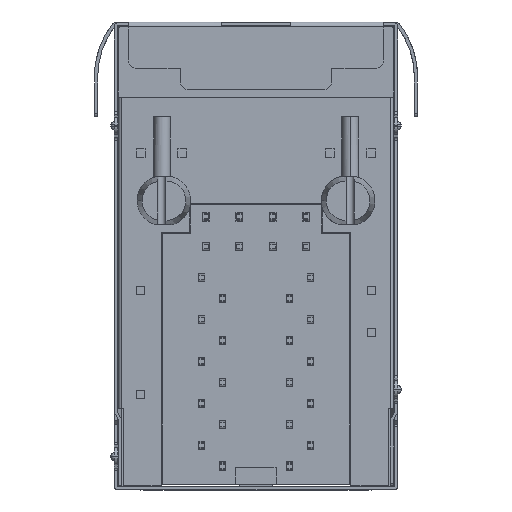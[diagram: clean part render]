
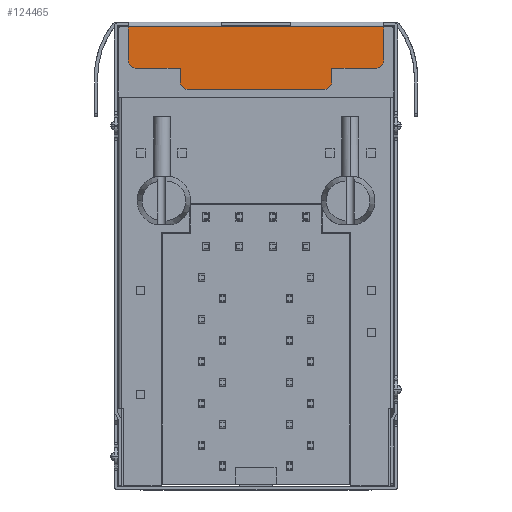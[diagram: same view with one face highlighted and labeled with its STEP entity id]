
A CAD part, front view. The second image highlights one B-rep face of the part: STEP entity #124465.
In plain terms, the highlighted planar face has unit normal (0, -1, 0).
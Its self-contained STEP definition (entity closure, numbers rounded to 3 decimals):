
#52 = DIRECTION ( 'NONE',  ( -1., 0., 0. ) ) ;
#445 = DIRECTION ( 'NONE',  ( -1., 0., 0. ) ) ;
#2903 = CIRCLE ( 'NONE', #116552, 0.5 ) ;
#3660 = EDGE_LOOP ( 'NONE', ( #4419, #145747, #17607, #168688, #151245, #145065, #78782, #167866, #30835, #84018, #22297, #86339 ) ) ;
#4019 = CARTESIAN_POINT ( 'NONE',  ( 4.428, -0.25, 24.795 ) ) ;
#4419 = ORIENTED_EDGE ( 'NONE', *, *, #174604, .F. ) ;
#5715 = EDGE_CURVE ( 'NONE', #133139, #91478, #111532, .T. ) ;
#14225 = VECTOR ( 'NONE', #122553, 1000. ) ;
#16945 = VECTOR ( 'NONE', #127702, 1000. ) ;
#17607 = ORIENTED_EDGE ( 'NONE', *, *, #179150, .F. ) ;
#19073 = VERTEX_POINT ( 'NONE', #199204 ) ;
#19264 = VERTEX_POINT ( 'NONE', #173790 ) ;
#19678 = VECTOR ( 'NONE', #208947, 1000. ) ;
#21848 = EDGE_CURVE ( 'NONE', #79120, #135962, #60407, .T. ) ;
#22297 = ORIENTED_EDGE ( 'NONE', *, *, #137909, .F. ) ;
#23728 = VECTOR ( 'NONE', #203459, 1000. ) ;
#25412 = EDGE_CURVE ( 'NONE', #63031, #135962, #180523, .T. ) ;
#30835 = ORIENTED_EDGE ( 'NONE', *, *, #21848, .T. ) ;
#34035 = VERTEX_POINT ( 'NONE', #117844 ) ;
#34242 = AXIS2_PLACEMENT_3D ( 'NONE', #4019, #94721, #109713 ) ;
#35910 = CARTESIAN_POINT ( 'NONE',  ( 13.128, -0.25, 24.295 ) ) ;
#40337 = CARTESIAN_POINT ( 'NONE',  ( 12.628, -0.25, 24.295 ) ) ;
#41029 = EDGE_CURVE ( 'NONE', #134973, #54100, #164870, .T. ) ;
#47163 = FACE_OUTER_BOUND ( 'NONE', #3660, .T. ) ;
#50468 = CARTESIAN_POINT ( 'NONE',  ( 13.128, -0.25, 25.599 ) ) ;
#53061 = AXIS2_PLACEMENT_3D ( 'NONE', #69382, #156659, #445 ) ;
#54022 = DIRECTION ( 'NONE',  ( 0., -1., 0. ) ) ;
#54100 = VERTEX_POINT ( 'NONE', #57166 ) ;
#57166 = CARTESIAN_POINT ( 'NONE',  ( 3.928, -0.25, 25.599 ) ) ;
#60407 = CIRCLE ( 'NONE', #53061, 0.5 ) ;
#63031 = VERTEX_POINT ( 'NONE', #50468 ) ;
#63233 = VERTEX_POINT ( 'NONE', #185800 ) ;
#64931 = DIRECTION ( 'NONE',  ( -1., 0., 0. ) ) ;
#69382 = CARTESIAN_POINT ( 'NONE',  ( 12.628, -0.25, 24.795 ) ) ;
#73123 = LINE ( 'NONE', #91471, #14225 ) ;
#77582 = CARTESIAN_POINT ( 'NONE',  ( 3.928, -0.25, 24.295 ) ) ;
#78495 = CARTESIAN_POINT ( 'NONE',  ( 0.778, -0.25, 27.394 ) ) ;
#78782 = ORIENTED_EDGE ( 'NONE', *, *, #88865, .T. ) ;
#79120 = VERTEX_POINT ( 'NONE', #40337 ) ;
#81612 = DIRECTION ( 'NONE',  ( 0., 0., -1. ) ) ;
#83303 = LINE ( 'NONE', #99401, #146983 ) ;
#84018 = ORIENTED_EDGE ( 'NONE', *, *, #25412, .F. ) ;
#84760 = VECTOR ( 'NONE', #217457, 1000. ) ;
#86170 = EDGE_CURVE ( 'NONE', #79120, #19073, #83303, .T. ) ;
#86339 = ORIENTED_EDGE ( 'NONE', *, *, #5715, .T. ) ;
#88865 = EDGE_CURVE ( 'NONE', #134973, #19073, #210299, .T. ) ;
#91462 = VERTEX_POINT ( 'NONE', #200323 ) ;
#91471 = CARTESIAN_POINT ( 'NONE',  ( 17.128, -0.25, 28.099 ) ) ;
#91478 = VERTEX_POINT ( 'NONE', #145203 ) ;
#94721 = DIRECTION ( 'NONE',  ( 0., -1., 0. ) ) ;
#99401 = CARTESIAN_POINT ( 'NONE',  ( 17.128, -0.25, 24.295 ) ) ;
#100514 = DIRECTION ( 'NONE',  ( 0., 0., 1. ) ) ;
#109713 = DIRECTION ( 'NONE',  ( -1., 0., 0. ) ) ;
#111532 = CIRCLE ( 'NONE', #148212, 0.5 ) ;
#116552 = AXIS2_PLACEMENT_3D ( 'NONE', #157143, #206578, #192774 ) ;
#117239 = DIRECTION ( 'NONE',  ( 0., 1., 0. ) ) ;
#117844 = CARTESIAN_POINT ( 'NONE',  ( 16.278, -0.25, 28.099 ) ) ;
#119019 = EDGE_CURVE ( 'NONE', #91462, #19264, #2903, .T. ) ;
#122553 = DIRECTION ( 'NONE',  ( -1., 0., 0. ) ) ;
#124465 = ADVANCED_FACE ( 'NONE', ( #47163 ), #167758, .F. ) ;
#125192 = CARTESIAN_POINT ( 'NONE',  ( 3.928, -0.25, 24.795 ) ) ;
#127702 = DIRECTION ( 'NONE',  ( 0., 0., -1. ) ) ;
#128860 = LINE ( 'NONE', #133381, #23728 ) ;
#133139 = VERTEX_POINT ( 'NONE', #145161 ) ;
#133381 = CARTESIAN_POINT ( 'NONE',  ( 3.928, -0.25, 25.599 ) ) ;
#133597 = LINE ( 'NONE', #78495, #84760 ) ;
#134973 = VERTEX_POINT ( 'NONE', #125192 ) ;
#135962 = VERTEX_POINT ( 'NONE', #159126 ) ;
#136624 = CARTESIAN_POINT ( 'NONE',  ( 13.128, -0.25, 25.599 ) ) ;
#137909 = EDGE_CURVE ( 'NONE', #133139, #63031, #152709, .T. ) ;
#145065 = ORIENTED_EDGE ( 'NONE', *, *, #41029, .F. ) ;
#145161 = CARTESIAN_POINT ( 'NONE',  ( 15.778, -0.25, 25.599 ) ) ;
#145203 = CARTESIAN_POINT ( 'NONE',  ( 16.278, -0.25, 26.099 ) ) ;
#145747 = ORIENTED_EDGE ( 'NONE', *, *, #209532, .T. ) ;
#146983 = VECTOR ( 'NONE', #64931, 1000. ) ;
#148212 = AXIS2_PLACEMENT_3D ( 'NONE', #193018, #54022, #52 ) ;
#150346 = EDGE_CURVE ( 'NONE', #54100, #19264, #128860, .T. ) ;
#151245 = ORIENTED_EDGE ( 'NONE', *, *, #150346, .F. ) ;
#152709 = LINE ( 'NONE', #136624, #19678 ) ;
#156659 = DIRECTION ( 'NONE',  ( 0., -1., 0. ) ) ;
#157143 = CARTESIAN_POINT ( 'NONE',  ( 1.278, -0.25, 26.099 ) ) ;
#157244 = VECTOR ( 'NONE', #213136, 1000. ) ;
#159126 = CARTESIAN_POINT ( 'NONE',  ( 13.128, -0.25, 24.795 ) ) ;
#161405 = CARTESIAN_POINT ( 'NONE',  ( 16.278, -0.25, 25.599 ) ) ;
#164870 = LINE ( 'NONE', #77582, #192423 ) ;
#167758 = PLANE ( 'NONE',  #220406 ) ;
#167866 = ORIENTED_EDGE ( 'NONE', *, *, #86170, .F. ) ;
#168688 = ORIENTED_EDGE ( 'NONE', *, *, #119019, .T. ) ;
#173790 = CARTESIAN_POINT ( 'NONE',  ( 1.278, -0.25, 25.599 ) ) ;
#174604 = EDGE_CURVE ( 'NONE', #34035, #91478, #212013, .T. ) ;
#179150 = EDGE_CURVE ( 'NONE', #91462, #63233, #133597, .T. ) ;
#180523 = LINE ( 'NONE', #35910, #16945 ) ;
#185800 = CARTESIAN_POINT ( 'NONE',  ( 0.778, -0.25, 28.099 ) ) ;
#192423 = VECTOR ( 'NONE', #100514, 1000. ) ;
#192774 = DIRECTION ( 'NONE',  ( -1., 0., 0. ) ) ;
#193018 = CARTESIAN_POINT ( 'NONE',  ( 15.778, -0.25, 26.099 ) ) ;
#199204 = CARTESIAN_POINT ( 'NONE',  ( 4.428, -0.25, 24.295 ) ) ;
#200323 = CARTESIAN_POINT ( 'NONE',  ( 0.778, -0.25, 26.099 ) ) ;
#203459 = DIRECTION ( 'NONE',  ( -1., 0., 0. ) ) ;
#206578 = DIRECTION ( 'NONE',  ( 0., -1., 0. ) ) ;
#208947 = DIRECTION ( 'NONE',  ( -1., 0., 0. ) ) ;
#209532 = EDGE_CURVE ( 'NONE', #34035, #63233, #73123, .T. ) ;
#210299 = CIRCLE ( 'NONE', #34242, 0.5 ) ;
#212013 = LINE ( 'NONE', #161405, #157244 ) ;
#213136 = DIRECTION ( 'NONE',  ( 0., 0., -1. ) ) ;
#217457 = DIRECTION ( 'NONE',  ( 0., 0., 1. ) ) ;
#220406 = AXIS2_PLACEMENT_3D ( 'NONE', #220577, #117239, #81612 ) ;
#220577 = CARTESIAN_POINT ( 'NONE',  ( 17.128, -0.25, 24.295 ) ) ;
